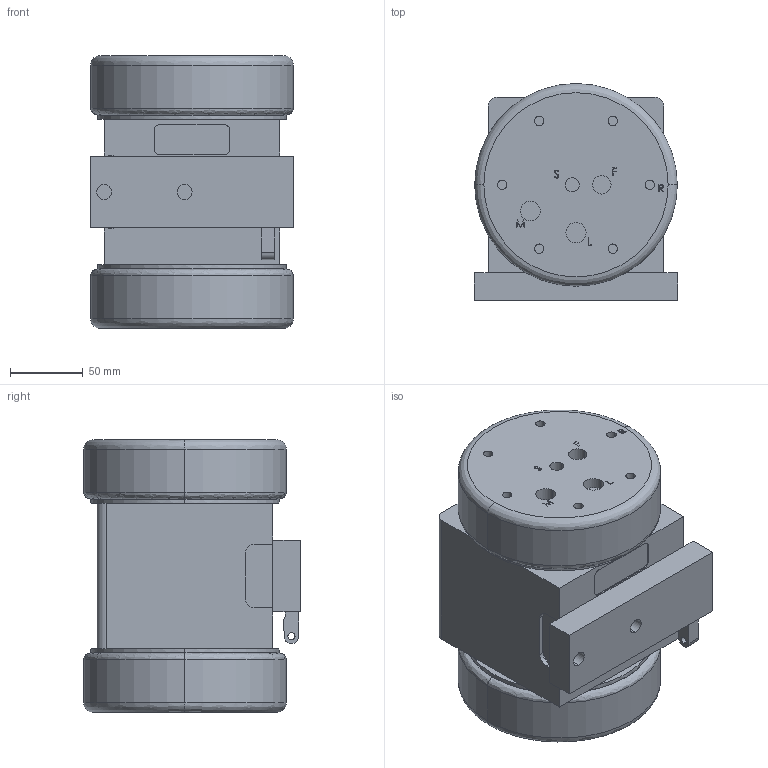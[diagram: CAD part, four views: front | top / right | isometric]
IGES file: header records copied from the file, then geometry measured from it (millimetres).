
Start section: SolidWorks IGES file using analytic representation for surfaces
Global section: file name: \\server\Users\Karen.Bodily\My Documents\PSU Defeatured\PSU030_without shuttle.IGS; native system: SolidWorks 2012; preprocessor: SolidWorks 2012; author: karen.bodily; date: 130725.111455; units: inch
Bounding box: 140.06 x 149.4 x 187.76 mm (x, y, z)
Volume: 2865606.9 mm3; surface area: 147806.6 mm2
Topology: 1 solids, 5 shells, 977 faces, 2564 edges, 1699 vertices
Faces by surface type: plane 694, bspline 170, revolution 113
